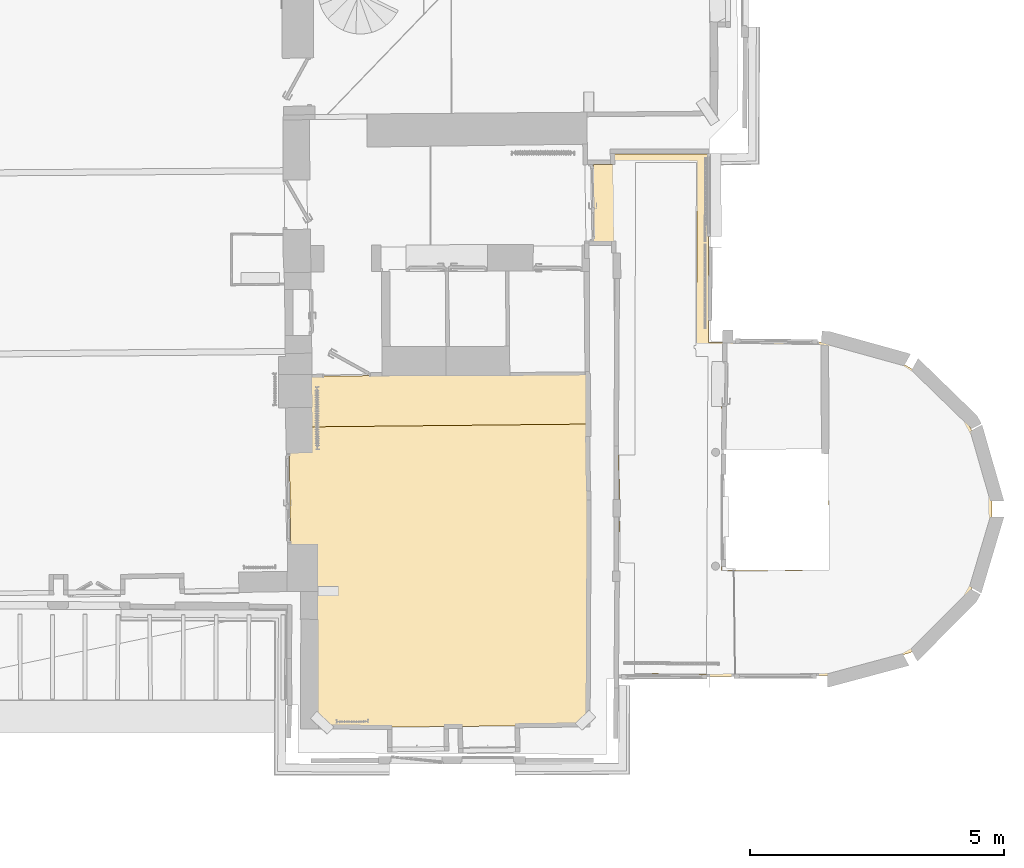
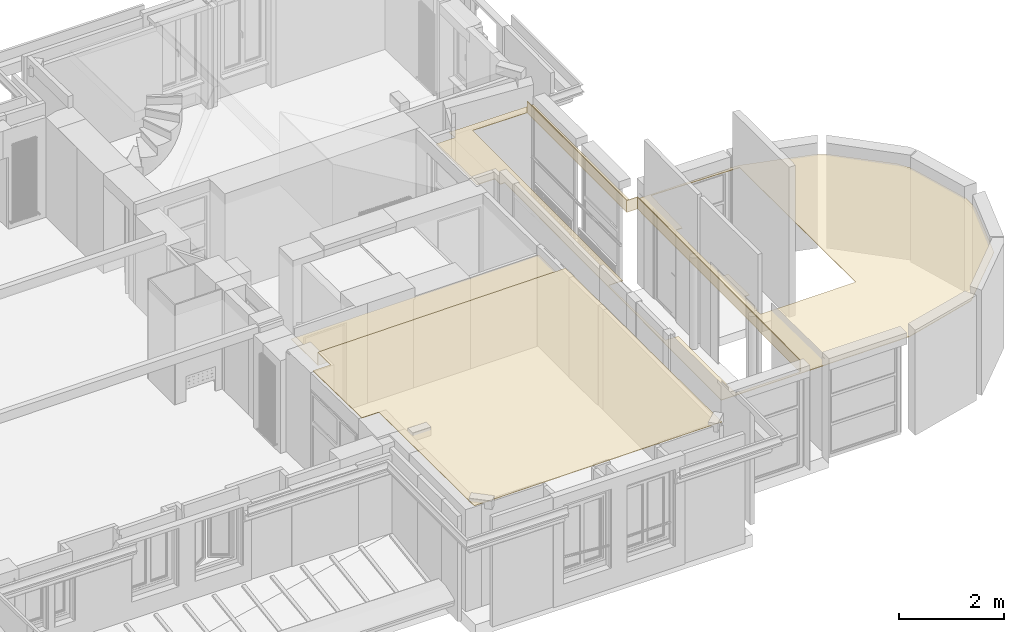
# One storey, part 68 of 72: 2 coverings.
"""IFC2X3 building model written with IfcOpenShell, lengths in centimetres."""

from ifc_helpers import new_model, entity, si_unit, converted_unit, direction, frame, origin, origin_with_axes, place, context, subcontext, project, spatial, faceted_brep, material, element, save


model = new_model("IFC2X3")

# Units and contexts
model_context = context("Model", 3, precision=0.0001, world=origin(), true_north=direction((0.225632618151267, 0.974212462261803, 0.0)))
body_context = subcontext(model_context, "Body", "Model", "MODEL_VIEW")
ifc_project = project(units=[si_unit("LENGTHUNIT", "METRE", prefix="CENTI"), si_unit("AREAUNIT", "SQUARE_METRE", prefix="CENTI"), si_unit("VOLUMEUNIT", "CUBIC_METRE", prefix="CENTI"), converted_unit("PLANEANGLEUNIT", "DEGREE", entity("IfcRatioMeasure", 0.0174532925), si_unit("PLANEANGLEUNIT", "RADIAN"), dimensions=[0, 0, 0, 0, 0, 0, 0])], contexts=[model_context])

# Site, building, storey
site_placement = place(None, origin_with_axes())
site = spatial("IfcSite", under=ifc_project, at=site_placement, Name="Default Site", CompositionType="ELEMENT")
building_placement = place(site_placement, origin_with_axes())
building = spatial("IfcBuilding", under=site, at=building_placement, Name="Default Building", CompositionType="ELEMENT")
storey_placement = place(building_placement, frame((0.0, 0.0, 853.910374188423), z_axis=(0.0, 0.0, 1.0), x_axis=(1.0, 0.0, 0.0)))
storey = spatial("IfcBuildingStorey", under=building, at=storey_placement, Name="Niveau 2", CompositionType="ELEMENT", Elevation=853.910374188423)

# Coverings
ifc_material = material(Name="Blanc")
covering_1_placement = place(storey_placement, frame((834.555661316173, -281.246207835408, 240.0), z_axis=(0.0, 0.0, 1.0), x_axis=(1.0, 0.0, 0.0)))
element("IfcCovering", 1, at=covering_1_placement, inside=storey, material=ifc_material, Name="Faux-plafond 152971", PredefinedType="CEILING", context=body_context, shape_type="Brep", body=[
    faceted_brep([(0.0449780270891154, -100.802685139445, -28.6068578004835), (-3.54006452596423e-05, -1.30918396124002e-06, -28.6068578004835), (-549.260460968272, -5.53941857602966, -28.6068578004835), (-548.720323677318, -106.428624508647, -28.6068578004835), (-548.720323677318, -106.428624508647, -30.0068516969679), (-549.260460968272, -5.53941857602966, -30.0068516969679), (-3.54006452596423e-05, -1.30918396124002e-06, -30.0068516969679), (0.0449780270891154, -100.802685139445, -30.0068516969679), (-4.76147552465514e-05, -1.31463965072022e-06, -30.0068516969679), (-4.76147552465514e-05, -1.31463965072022e-06, -28.6068578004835), (-549.260460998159, -5.5394156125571, -30.0068516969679), (-549.260460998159, -5.5394156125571, -28.6068578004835), (-548.720326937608, -106.428624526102, -30.0068516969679), (-548.720326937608, -106.428624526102, -28.6068578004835), (0.0449781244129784, -100.802694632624, -30.0068516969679), (0.0449781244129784, -100.802694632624, -28.6068578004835)], [[[0, 1, 2, 3]], [[4, 5, 6, 7]], [[7, 8, 9, 0]], [[6, 10, 11, 1]], [[5, 12, 13, 2]], [[4, 14, 15, 3]]]),
    faceted_brep([(3.09711730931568, -692.114235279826, 1.40002772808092), (0.0449780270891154, -100.802685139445, 1.40002772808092), (-548.720323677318, -106.428624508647, 1.40002772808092), (-548.405062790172, -154.749275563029, 1.40002772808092), (-587.84416877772, -155.213238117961, 1.40002772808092), (-585.322057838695, -337.487532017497, 1.40002772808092), (-547.48214447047, -337.701774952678, 1.40002772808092), (-545.555197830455, -697.631336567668, 1.40002772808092), (-545.555197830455, -697.631336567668, 3.38315965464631e-05), (-547.48214447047, -337.701774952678, 3.38315965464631e-05), (-585.322057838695, -337.487532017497, 3.38315965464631e-05), (-587.84416877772, -155.213238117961, 3.38315965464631e-05), (-548.405062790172, -154.749275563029, 3.38315965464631e-05), (-548.720323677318, -106.428624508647, 3.38315965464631e-05), (0.0449780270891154, -100.802685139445, 3.38315965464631e-05), (3.09711730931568, -692.114235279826, 3.38315965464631e-05), (0.0450345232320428, -100.802684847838, 3.38315965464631e-05), (0.0450345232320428, -100.802684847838, 1.40002772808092), (-548.720323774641, -106.428615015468, 3.38315965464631e-05), (-548.720323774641, -106.428615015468, 1.40002772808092), (-548.405055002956, -154.749275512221, 3.38315965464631e-05), (-548.405055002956, -154.749275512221, 1.40002772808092), (-587.844168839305, -155.213232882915, 3.38315965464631e-05), (-587.844168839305, -155.213232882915, 1.40002772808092), (-585.322044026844, -337.487531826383, 3.38315965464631e-05), (-585.322044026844, -337.487531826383, 1.40002772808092), (-547.482144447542, -337.701770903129, 3.38315965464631e-05), (-547.482144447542, -337.701770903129, 1.40002772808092), (-545.555177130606, -697.631336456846, 3.38315965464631e-05), (-545.555177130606, -697.631336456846, 1.40002772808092), (3.09711682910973, -692.114187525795, 3.38315965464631e-05), (3.09711682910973, -692.114187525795, 1.40002772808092)], [[[0, 1, 2, 3, 4, 5, 6, 7]], [[8, 9, 10, 11, 12, 13, 14, 15]], [[15, 16, 17, 0]], [[14, 18, 19, 1]], [[13, 20, 21, 2]], [[12, 22, 23, 3]], [[11, 24, 25, 4]], [[10, 26, 27, 5]], [[9, 28, 29, 6]], [[8, 30, 31, 7]]]),
    faceted_brep([(-548.733150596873, -105.178667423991, -30.0068516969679), (0.0321987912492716, -99.5527518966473, -30.0068516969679), (0.0449780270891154, -100.802685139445, -30.0068516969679), (-548.720323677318, -106.428624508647, -30.0068516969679), (0.0321987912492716, -99.5527518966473, -0.00683262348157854), (0.0450130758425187, -100.802684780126, -0.00683262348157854), (0.0450130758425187, -100.802684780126, -30.0068516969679), (-548.733150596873, -105.178667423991, -0.00683262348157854), (-548.720323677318, -106.428624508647, -0.00683262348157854), (0.0449780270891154, -100.802685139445, -0.00683262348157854), (-548.720336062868, -106.428624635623, -30.0068516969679), (-548.720336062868, -106.428624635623, -0.00683262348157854), (0.0449781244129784, -100.802694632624, -30.0068516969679), (0.0449781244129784, -100.802694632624, -0.00683262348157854), (0.0321986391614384, -99.5527370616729, -0.00683262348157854), (0.0321986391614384, -99.5527370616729, -30.0068516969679)], [[[0, 1, 2, 3]], [[1, 4, 5, 6]], [[4, 7, 8, 9]], [[7, 0, 10, 11]], [[3, 12, 13, 8]], [[7, 14, 15, 0]]]),
])
covering_2_placement = place(storey_placement, frame((844.970452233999, 130.304974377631, 215.0), z_axis=(0.0, 0.0, 1.0), x_axis=(1.0, 0.0, 0.0)))
element("IfcCovering", 2, at=covering_2_placement, inside=storey, material=ifc_material, Name="Faux-plafond 724694", PredefinedType="CEILING", context=body_context, shape_type="Brep", body=[
    faceted_brep([(-0.354229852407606, -156.538844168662, 1.40002772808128), (39.6258955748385, -156.629318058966, 1.40002772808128), (39.427531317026, -177.375456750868, 1.40002772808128), (49.4273787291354, -177.315676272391, 1.40002772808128), (45.3522330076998, -1009.56084138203, 1.40002772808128), (462.771857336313, -1005.86354142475, 1.40002772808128), (624.214041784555, -961.149948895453, 1.40002772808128), (741.736281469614, -843.76522904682, 1.40002772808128), (784.999907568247, -698.435086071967, 1.40002772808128), (785.046637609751, -660.914248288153, 1.40002772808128), (745.083869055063, -523.542708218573, 1.40002772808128), (728.956759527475, -497.092288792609, 1.40002772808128), (632.006991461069, -405.587142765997, 1.40002772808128), (606.758082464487, -390.89407330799, 1.40002772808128), (465.335620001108, -350.79979306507, 1.40002772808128), (444.588816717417, -349.736040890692, 1.40002772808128), (255.875742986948, -350.404065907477, 1.40002772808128), (226.812136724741, -350.378626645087, 1.40002772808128), (226.819575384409, 20.6050216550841, 1.40002772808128), (40.5167227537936, 20.7726656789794, 1.40002772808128), (42.8069716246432, -0.229460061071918, 1.40002772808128), (-3.52112943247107e-05, 5.90038438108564e-06, 1.40002772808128), (83.0638533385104, 3.9708673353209, 1.40002772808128), (202.855551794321, 3.31241482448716, 1.40002772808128), (201.980364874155, -377.96613580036, 1.40002772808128), (225.6256705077, -377.92951470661, 1.40002772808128), (222.936022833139, -1003.24103242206, 1.40002772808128), (80.8006888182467, -1002.16004258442, 1.40002772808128), (80.5912619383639, -784.95609170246, 1.40002772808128), (52.9924994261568, -783.642357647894, 1.40002772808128), (50.4775648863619, -571.967524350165, 1.40002772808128), (81.6720610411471, -571.803492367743, 1.40002772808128), (253.282321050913, -799.896544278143, 1.40002772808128), (252.285159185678, -783.604401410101, 1.40002772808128), (255.485880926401, -783.634012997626, 1.40002772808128), (255.50905521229, -777.587813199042, 1.40002772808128), (257.112372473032, -777.574080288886, 1.40002772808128), (256.182540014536, -733.738535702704, 1.40002772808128), (267.071974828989, -733.363646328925, 1.40002772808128), (266.310179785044, -653.263539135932, 1.40002772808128), (255.528796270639, -653.329533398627, 1.40002772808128), (255.786765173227, -610.625141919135, 1.40002772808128), (253.588545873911, -610.380953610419, 1.40002772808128), (253.726161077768, -604.617565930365, 1.40002772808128), (252.173483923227, -603.795355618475, 1.40002772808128), (253.721583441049, -476.608818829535, 1.40002772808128), (267.276537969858, -477.144593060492, 1.40002772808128), (269.78431995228, -353.536957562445, 1.40002772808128), (462.33221347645, -357.44349366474, 1.40002772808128), (463.774550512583, -798.079603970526, 1.40002772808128), (-3.52112943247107e-05, 5.90038438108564e-06, 3.38315969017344e-05), (42.8069716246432, -0.229460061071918, 3.38315969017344e-05), (40.5167227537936, 20.7726656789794, 3.38315969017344e-05), (226.819575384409, 20.6050216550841, 3.38315969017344e-05), (226.812136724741, -350.378626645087, 3.38315969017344e-05), (255.875742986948, -350.404065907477, 3.38315969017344e-05), (444.588816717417, -349.736040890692, 3.38315969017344e-05), (465.335620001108, -350.79979306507, 3.38315969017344e-05), (606.758082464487, -390.89407330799, 3.38315969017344e-05), (632.006991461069, -405.587142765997, 3.38315969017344e-05), (728.956759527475, -497.092288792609, 3.38315969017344e-05), (745.083869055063, -523.542708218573, 3.38315969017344e-05), (785.046637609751, -660.914248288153, 3.38315969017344e-05), (784.999907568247, -698.435086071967, 3.38315969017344e-05), (741.736281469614, -843.76522904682, 3.38315969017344e-05), (624.214041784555, -961.149948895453, 3.38315969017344e-05), (462.771857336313, -1005.86354142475, 3.38315969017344e-05), (45.3522330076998, -1009.56084138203, 3.38315969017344e-05), (49.4273787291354, -177.315676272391, 3.38315969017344e-05), (39.427531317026, -177.375456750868, 3.38315969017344e-05), (39.6258955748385, -156.629318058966, 3.38315969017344e-05), (-0.354229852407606, -156.538844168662, 3.38315969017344e-05), (81.6720610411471, -571.803492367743, 3.38315969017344e-05), (50.4775648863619, -571.967524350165, 3.38315969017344e-05), (52.9924994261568, -783.642357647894, 3.38315969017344e-05), (80.5912619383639, -784.95609170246, 3.38315969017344e-05), (80.8006888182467, -1002.16004258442, 3.38315969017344e-05), (222.936022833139, -1003.24103242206, 3.38315969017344e-05), (225.6256705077, -377.92951470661, 3.38315969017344e-05), (201.980364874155, -377.96613580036, 3.38315969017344e-05), (202.855551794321, 3.31241482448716, 3.38315969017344e-05), (83.0638533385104, 3.9708673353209, 3.38315969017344e-05), (463.774550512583, -798.079603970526, 3.38315969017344e-05), (462.33221347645, -357.44349366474, 3.38315969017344e-05), (269.78431995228, -353.536957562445, 3.38315969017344e-05), (267.276537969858, -477.144593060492, 3.38315969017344e-05), (253.721583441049, -476.608818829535, 3.38315969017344e-05), (252.173483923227, -603.795355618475, 3.38315969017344e-05), (253.726161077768, -604.617565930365, 3.38315969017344e-05), (253.588545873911, -610.380953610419, 3.38315969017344e-05), (255.786765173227, -610.625141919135, 3.38315969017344e-05), (255.528796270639, -653.329533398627, 3.38315969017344e-05), (266.310179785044, -653.263539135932, 3.38315969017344e-05), (267.071974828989, -733.363646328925, 3.38315969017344e-05), (256.182540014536, -733.738535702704, 3.38315969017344e-05), (257.112372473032, -777.574080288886, 3.38315969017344e-05), (255.50905521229, -777.587813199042, 3.38315969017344e-05), (255.485880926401, -783.634012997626, 3.38315969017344e-05), (252.285159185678, -783.604401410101, 3.38315969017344e-05), (253.282321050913, -799.896544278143, 3.38315969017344e-05), (39.6258955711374, -156.629319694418, 3.38315969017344e-05), (39.6258955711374, -156.629319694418, 1.40002772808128), (39.4274950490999, -177.375456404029, 3.38315969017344e-05), (39.4274950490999, -177.375456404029, 1.40002772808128), (49.4273787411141, -177.31567827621, 3.38315969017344e-05), (49.4273787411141, -177.31567827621, 1.40002772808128), (45.3522847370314, -1009.56084163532, 3.38315969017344e-05), (45.3522847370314, -1009.56084163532, 1.40002772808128), (462.771858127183, -1005.86363071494, 3.38315969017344e-05), (462.771858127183, -1005.86363071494, 1.40002772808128), (624.214037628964, -961.149933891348, 3.38315969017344e-05), (624.214037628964, -961.149933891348, 1.40002772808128), (741.7362514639, -843.76519900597, 3.38315969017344e-05), (741.7362514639, -843.76519900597, 1.40002772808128), (784.999895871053, -698.435082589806, 3.38315969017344e-05), (784.999895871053, -698.435082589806, 1.40002772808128), (785.046608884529, -660.9142482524, 3.38315969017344e-05), (785.046608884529, -660.9142482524, 1.40002772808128), (745.083971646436, -523.54267837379, 3.38315969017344e-05), (745.083971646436, -523.54267837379, 1.40002772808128), (728.956746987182, -497.092296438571, 3.38315969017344e-05), (728.956746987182, -497.092296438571, 1.40002772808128), (632.006967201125, -405.58716846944, 3.38315969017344e-05), (632.006967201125, -405.58716846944, 1.40002772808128), (606.758078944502, -390.894079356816, 3.38315969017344e-05), (606.758078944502, -390.894079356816, 1.40002772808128), (465.335624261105, -350.799778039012, 3.38315969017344e-05), (465.335624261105, -350.799778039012, 1.40002772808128), (444.588816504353, -349.73604504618, 3.38315969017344e-05), (444.588816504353, -349.73604504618, 1.40002772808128), (255.87574301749, -350.404074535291, 3.38315969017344e-05), (255.87574301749, -350.404074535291, 1.40002772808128), (226.812136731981, -350.378618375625, 3.38315969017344e-05), (226.812136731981, -350.378618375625, 1.40002772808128), (226.819537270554, 20.6050216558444, 3.38315969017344e-05), (226.819537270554, 20.6050216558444, 1.40002772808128), (40.5167227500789, 20.7726615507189, 3.38315969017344e-05), (40.5167227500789, 20.7726615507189, 1.40002772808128), (42.8069843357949, -0.229458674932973, 3.38315969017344e-05), (42.8069843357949, -0.229458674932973, 1.40002772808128), (-3.52372197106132e-05, 1.06388681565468e-06, 3.38315969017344e-05), (-3.52372197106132e-05, 1.06388681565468e-06, 1.40002772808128), (-0.354284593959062, -156.538844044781, 3.38315969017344e-05), (-0.354284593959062, -156.538844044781, 1.40002772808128), (50.4775647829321, -571.967504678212, 1.40002772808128), (50.4775647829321, -571.967504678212, 3.38315969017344e-05), (52.9924691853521, -783.642358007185, 1.40002772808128), (52.9924691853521, -783.642358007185, 3.38315969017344e-05), (80.5912620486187, -784.956089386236, 1.40002772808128), (80.5912620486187, -784.956089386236, 3.38315969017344e-05), (80.8007622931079, -1002.16004251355, 1.40002772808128), (80.8007622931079, -1002.16004251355, 3.38315969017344e-05), (222.936022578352, -1003.24106592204, 1.40002772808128), (222.936022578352, -1003.24106592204, 3.38315969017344e-05), (225.625743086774, -377.929515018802, 1.40002772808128), (225.625743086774, -377.929515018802, 3.38315969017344e-05), (201.980364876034, -377.966137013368, 1.40002772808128), (201.980364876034, -377.966137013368, 3.38315969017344e-05), (202.855601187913, 3.3124147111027, 1.40002772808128), (202.855601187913, 3.3124147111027, 3.38315969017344e-05), (83.0638533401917, 3.97086764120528, 1.40002772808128), (83.0638533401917, 3.97086764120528, 3.38315969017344e-05), (81.6720329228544, -571.803492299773, 1.40002772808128), (81.6720329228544, -571.803492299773, 3.38315969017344e-05), (462.332237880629, -357.443493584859, 1.40002772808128), (462.332237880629, -357.443493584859, 3.38315969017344e-05), (269.784320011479, -353.536954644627, 1.40002772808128), (269.784320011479, -353.536954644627, 3.38315969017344e-05), (267.276486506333, -477.144592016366, 1.40002772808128), (267.276486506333, -477.144592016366, 3.38315969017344e-05), (253.721583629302, -476.608814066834, 1.40002772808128), (253.721583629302, -476.608814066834, 3.38315969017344e-05), (252.173397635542, -603.795354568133, 1.40002772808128), (252.173397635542, -603.795354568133, 3.38315969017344e-05), (253.726166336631, -604.617555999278, 1.40002772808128), (253.726166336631, -604.617555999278, 3.38315969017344e-05), (253.588611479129, -610.380955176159, 1.40002772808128), (253.588611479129, -610.380955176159, 3.38315969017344e-05), (255.786768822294, -610.625109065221, 1.40002772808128), (255.786768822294, -610.625109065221, 3.38315969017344e-05), (255.528784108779, -653.329533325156, 1.40002772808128), (255.528784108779, -653.329533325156, 3.38315969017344e-05), (266.31017969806, -653.263524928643, 1.40002772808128), (266.31017969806, -653.263524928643, 3.38315969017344e-05), (267.072002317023, -733.363646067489, 1.40002772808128), (267.072002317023, -733.363646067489, 3.38315969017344e-05), (256.182541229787, -733.738570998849, 1.40002772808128), (256.182541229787, -733.738570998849, 3.38315969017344e-05), (257.112370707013, -777.574080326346, 1.40002772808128), (257.112370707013, -777.574080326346, 3.38315969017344e-05), (255.509055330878, -777.58782703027, 1.40002772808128), (255.509055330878, -777.58782703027, 3.38315969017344e-05), (255.485937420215, -783.634013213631, 1.40002772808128), (255.485937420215, -783.634013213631, 3.38315969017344e-05), (252.285159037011, -783.604417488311, 1.40002772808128), (252.285159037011, -783.604417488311, 3.38315969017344e-05), (253.282316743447, -799.896544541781, 1.40002772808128), (253.282316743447, -799.896544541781, 3.38315969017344e-05), (463.774550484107, -798.079600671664, 1.40002772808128), (463.774550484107, -798.079600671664, 3.38315969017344e-05)], [[[0, 1, 2, 3, 4, 5, 6, 7, 8, 9, 10, 11, 12, 13, 14, 15, 16, 17, 18, 19, 20, 21], [22, 23, 24, 25, 26, 27, 28, 29, 30, 31], [32, 33, 34, 35, 36, 37, 38, 39, 40, 41, 42, 43, 44, 45, 46, 47, 48, 49]], [[50, 51, 52, 53, 54, 55, 56, 57, 58, 59, 60, 61, 62, 63, 64, 65, 66, 67, 68, 69, 70, 71], [72, 73, 74, 75, 76, 77, 78, 79, 80, 81], [82, 83, 84, 85, 86, 87, 88, 89, 90, 91, 92, 93, 94, 95, 96, 97, 98, 99]], [[71, 100, 101, 0]], [[70, 102, 103, 1]], [[69, 104, 105, 2]], [[68, 106, 107, 3]], [[67, 108, 109, 4]], [[66, 110, 111, 5]], [[65, 112, 113, 6]], [[64, 114, 115, 7]], [[63, 116, 117, 8]], [[62, 118, 119, 9]], [[61, 120, 121, 10]], [[60, 122, 123, 11]], [[59, 124, 125, 12]], [[58, 126, 127, 13]], [[57, 128, 129, 14]], [[56, 130, 131, 15]], [[55, 132, 133, 16]], [[54, 134, 135, 17]], [[53, 136, 137, 18]], [[52, 138, 139, 19]], [[51, 140, 141, 20]], [[50, 142, 143, 21]], [[31, 144, 145, 72]], [[30, 146, 147, 73]], [[29, 148, 149, 74]], [[28, 150, 151, 75]], [[27, 152, 153, 76]], [[26, 154, 155, 77]], [[25, 156, 157, 78]], [[24, 158, 159, 79]], [[23, 160, 161, 80]], [[22, 162, 163, 81]], [[49, 164, 165, 82]], [[48, 166, 167, 83]], [[47, 168, 169, 84]], [[46, 170, 171, 85]], [[45, 172, 173, 86]], [[44, 174, 175, 87]], [[43, 176, 177, 88]], [[42, 178, 179, 89]], [[41, 180, 181, 90]], [[40, 182, 183, 91]], [[39, 184, 185, 92]], [[38, 186, 187, 93]], [[37, 188, 189, 94]], [[36, 190, 191, 95]], [[35, 192, 193, 96]], [[34, 194, 195, 97]], [[33, 196, 197, 98]], [[32, 198, 199, 99]]]),
    faceted_brep([(226.881564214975, -376.677578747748, 3.38315969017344e-05), (223.951113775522, -1003.24513322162, 3.38315969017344e-05), (222.701132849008, -1003.23931580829, 3.38315969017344e-05), (225.6256705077, -377.92951470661, 3.38315969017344e-05), (223.951113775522, -1003.24513322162, 27.6000361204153), (222.701132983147, -1003.23928712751, 27.6000361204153), (222.701132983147, -1003.23928712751, 3.38315969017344e-05), (226.881564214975, -376.677578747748, 27.6000361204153), (225.6256705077, -377.92951470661, 27.6000361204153), (222.701132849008, -1003.23931580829, 27.6000361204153), (225.625688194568, -377.929532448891, 3.38315969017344e-05), (225.625688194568, -377.929532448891, 27.6000361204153), (222.70112960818, -1003.23931579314, 3.38315969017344e-05), (222.70112960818, -1003.23931579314, 27.6000361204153), (223.951140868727, -1003.24513334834, 27.6000361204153), (223.951140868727, -1003.24513334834, 3.38315969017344e-05), (203.233206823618, -376.714199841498, 3.38315969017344e-05), (226.881564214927, -376.677578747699, 1.21317546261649e-11), (225.625670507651, -377.929514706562, 6.28057107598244e-11), (201.980364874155, -377.96613580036, 3.38272749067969e-05), (203.233206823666, -376.714199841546, 27.6000699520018), (201.980364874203, -377.966135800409, 27.60006995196), (225.6256705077, -377.92951470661, 27.6000361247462), (203.233206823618, -376.714199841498, 27.6000361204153), (201.98035025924, -377.966121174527, 3.38315969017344e-05), (201.98035025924, -377.966121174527, 27.6000361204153), (201.980364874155, -377.96613580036, 3.38315969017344e-05), (225.625670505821, -377.929513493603, 3.38315969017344e-05), (225.625670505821, -377.929513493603, 27.6000361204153), (201.980364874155, -377.96613580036, 27.6000361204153), (226.881564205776, -376.67757280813, 27.6000361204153), (226.881564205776, -376.67757280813, 3.38315969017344e-05), (204.105532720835, 3.30954188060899, 3.38315969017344e-05), (202.855551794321, 3.31241482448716, 3.38315969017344e-05), (204.105532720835, 3.30954188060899, 27.6000361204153), (202.855551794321, 3.31241482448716, 27.6000361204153), (202.855551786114, 3.3124112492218, 3.38315969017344e-05), (202.855551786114, 3.3124112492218, 27.6000361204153), (201.980315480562, -377.966135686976, 3.38315969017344e-05), (201.980315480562, -377.966135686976, 27.6000361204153), (203.233176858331, -376.714199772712, 27.6000361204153), (203.233176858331, -376.714199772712, 3.38315969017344e-05)], [[[0, 1, 2, 3]], [[1, 4, 5, 6]], [[4, 7, 8, 9]], [[7, 0, 10, 11]], [[3, 12, 13, 8]], [[7, 14, 15, 0]], [[16, 17, 18, 19]], [[0, 7, 11, 10]], [[7, 20, 21, 22]], [[23, 16, 24, 25]], [[26, 27, 28, 29]], [[23, 30, 31, 16]], [[32, 16, 26, 33]], [[16, 23, 25, 24]], [[23, 34, 35, 29]], [[34, 32, 36, 37]], [[33, 38, 39, 35]], [[34, 40, 41, 32]]]),
])

save(model, "model.ifc")
